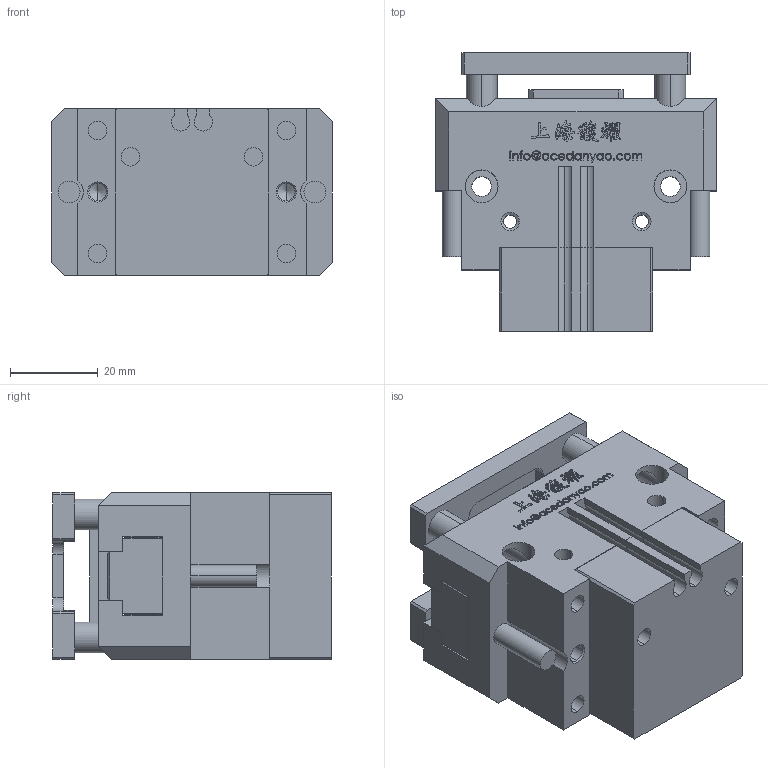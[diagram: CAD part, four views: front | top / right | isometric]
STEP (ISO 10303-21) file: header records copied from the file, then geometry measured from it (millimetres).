
FILE_DESCRIPTION (( 'STEP AP203' ), '1' );
FILE_NAME ('OPP2-64-C2-P-MC&MA-原始檔-組合-W106.04.18.STEP', '2017-04-18T08:52:20', ( 'DanyaoCAD' ), ( '' ), 'SwSTEP 2.0', 'SolidWorks 2016', '' );
FILE_SCHEMA (( 'CONFIG_CONTROL_DESIGN' ));
Length unit declared in the file: millimetre
Products named in the file (6): Coperchio; Griffa; Corpo; Fondello; Piattello; OPP2-64-C2-P-MC&MA-原始檔-組合-W106.04.18
Assembly tree (6 placements, depth 2):
  OPP2-64-C2-P-MC&MA-原始檔-組合-W106.04.18
    Coperchio
    Griffa  x2
    Corpo
    Fondello
    Piattello
Bounding box: 64 x 63.5 x 38 mm (x, y, z)
Volume: 101428.8 mm3; surface area: 37676.2 mm2
Topology: 6 solids, 6 shells, 1129 faces, 3149 edges, 2068 vertices
Faces by surface type: bspline 640, plane 320, cylinder 119, cone 50
Entity records: 51767 total; most frequent: CARTESIAN_POINT 27564, ORIENTED_EDGE 6038, EDGE_CURVE 3019, DIRECTION 2837, VERTEX_POINT 1994, LINE 1455, VECTOR 1455, B_SPLINE_CURVE_WITH_KNOTS 1302
